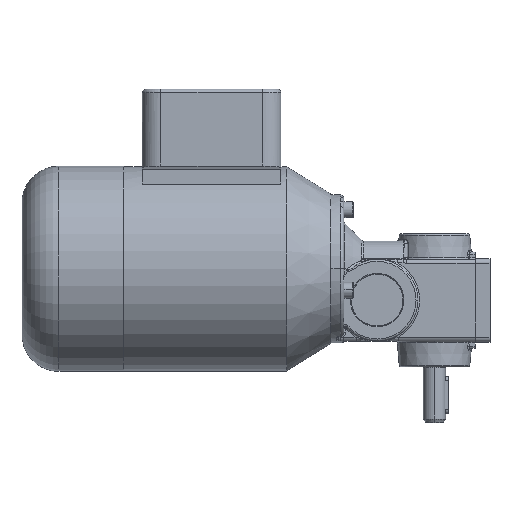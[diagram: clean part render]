
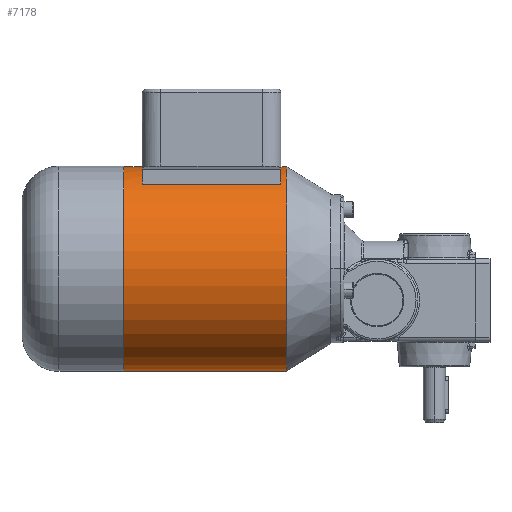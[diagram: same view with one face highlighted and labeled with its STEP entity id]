
A CAD part, top view. The second image highlights one B-rep face of the part: STEP entity #7178.
In plain terms, the highlighted cylindrical face has radius 55.25 mm (diameter 110.5 mm), a partial arc.
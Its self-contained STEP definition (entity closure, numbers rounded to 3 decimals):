
#34 = ORIENTED_EDGE ( 'NONE', *, *, #6177, .T. ) ;
#157 = DIRECTION ( 'NONE',  ( -1., 0., 0. ) ) ;
#544 = LINE ( 'NONE', #5628, #14982 ) ;
#827 = DIRECTION ( 'NONE',  ( 1., 0., 0. ) ) ;
#1104 = VERTEX_POINT ( 'NONE', #6910 ) ;
#1325 = CIRCLE ( 'NONE', #13515, 55.25 ) ;
#1761 = VERTEX_POINT ( 'NONE', #12609 ) ;
#1795 = ORIENTED_EDGE ( 'NONE', *, *, #3312, .F. ) ;
#1806 = DIRECTION ( 'NONE',  ( -1., 0., 0. ) ) ;
#2037 = ORIENTED_EDGE ( 'NONE', *, *, #5833, .F. ) ;
#2106 = VERTEX_POINT ( 'NONE', #3444 ) ;
#2120 = EDGE_CURVE ( 'NONE', #11234, #6766, #10982, .T. ) ;
#2674 = ORIENTED_EDGE ( 'NONE', *, *, #2120, .F. ) ;
#2685 = VECTOR ( 'NONE', #10660, 1000. ) ;
#2811 = DIRECTION ( 'NONE',  ( -1., 0., 0. ) ) ;
#2814 = CYLINDRICAL_SURFACE ( 'NONE', #16164, 55.25 ) ;
#3136 = LINE ( 'NONE', #10782, #3855 ) ;
#3212 = CIRCLE ( 'NONE', #13800, 55.25 ) ;
#3312 = EDGE_CURVE ( 'NONE', #13539, #11234, #3136, .T. ) ;
#3337 = DIRECTION ( 'NONE',  ( 0., 0., -1. ) ) ;
#3415 = AXIS2_PLACEMENT_3D ( 'NONE', #5391, #2811, #6721 ) ;
#3421 = EDGE_CURVE ( 'NONE', #2106, #1104, #544, .T. ) ;
#3444 = CARTESIAN_POINT ( 'NONE',  ( 65., 31., -45.734 ) ) ;
#3855 = VECTOR ( 'NONE', #1806, 1000. ) ;
#4186 = CARTESIAN_POINT ( 'NONE',  ( 0., 0., -55.25 ) ) ;
#4187 = ORIENTED_EDGE ( 'NONE', *, *, #3421, .F. ) ;
#5006 = DIRECTION ( 'NONE',  ( 0., 0., 1. ) ) ;
#5033 = CIRCLE ( 'NONE', #3415, 55.25 ) ;
#5161 = CARTESIAN_POINT ( 'NONE',  ( 143., 0., 55.25 ) ) ;
#5277 = LINE ( 'NONE', #6610, #8707 ) ;
#5391 = CARTESIAN_POINT ( 'NONE',  ( 143., 0., 0. ) ) ;
#5628 = CARTESIAN_POINT ( 'NONE',  ( 12.029, 31., -45.734 ) ) ;
#5833 = EDGE_CURVE ( 'NONE', #12564, #2106, #3212, .T. ) ;
#6177 = EDGE_CURVE ( 'NONE', #13539, #16392, #5033, .T. ) ;
#6262 = CARTESIAN_POINT ( 'NONE',  ( 55., 0., 55.25 ) ) ;
#6610 = CARTESIAN_POINT ( 'NONE',  ( 0., 0., -55.25 ) ) ;
#6616 = ORIENTED_EDGE ( 'NONE', *, *, #7422, .F. ) ;
#6721 = DIRECTION ( 'NONE',  ( 0., 0., 1. ) ) ;
#6766 = VERTEX_POINT ( 'NONE', #13705 ) ;
#6910 = CARTESIAN_POINT ( 'NONE',  ( 140., 31., -45.734 ) ) ;
#7178 = ADVANCED_FACE ( 'NONE', ( #7730 ), #2814, .T. ) ;
#7338 = ORIENTED_EDGE ( 'NONE', *, *, #8212, .T. ) ;
#7422 = EDGE_CURVE ( 'NONE', #1104, #1761, #1325, .T. ) ;
#7730 = FACE_OUTER_BOUND ( 'NONE', #13239, .T. ) ;
#8212 = EDGE_CURVE ( 'NONE', #16392, #1761, #5277, .T. ) ;
#8324 = CARTESIAN_POINT ( 'NONE',  ( 143., 0., -55.25 ) ) ;
#8484 = CARTESIAN_POINT ( 'NONE',  ( 65., 0., 0. ) ) ;
#8707 = VECTOR ( 'NONE', #9163, 1000. ) ;
#9121 = CARTESIAN_POINT ( 'NONE',  ( 0., 0., 0. ) ) ;
#9163 = DIRECTION ( 'NONE',  ( -1., 0., 0. ) ) ;
#9863 = CARTESIAN_POINT ( 'NONE',  ( 140., 0., 0. ) ) ;
#10493 = LINE ( 'NONE', #4186, #2685 ) ;
#10660 = DIRECTION ( 'NONE',  ( -1., 0., 0. ) ) ;
#10691 = DIRECTION ( 'NONE',  ( 1., 0., 0. ) ) ;
#10782 = CARTESIAN_POINT ( 'NONE',  ( 0., 0., 55.25 ) ) ;
#10982 = CIRCLE ( 'NONE', #11256, 55.25 ) ;
#11234 = VERTEX_POINT ( 'NONE', #6262 ) ;
#11256 = AXIS2_PLACEMENT_3D ( 'NONE', #14966, #16362, #5006 ) ;
#11469 = CARTESIAN_POINT ( 'NONE',  ( 65., 0., -55.25 ) ) ;
#12489 = ORIENTED_EDGE ( 'NONE', *, *, #13364, .T. ) ;
#12545 = DIRECTION ( 'NONE',  ( 0., 0., 1. ) ) ;
#12564 = VERTEX_POINT ( 'NONE', #11469 ) ;
#12609 = CARTESIAN_POINT ( 'NONE',  ( 140., 0., -55.25 ) ) ;
#13239 = EDGE_LOOP ( 'NONE', ( #34, #7338, #6616, #4187, #2037, #12489, #2674, #1795 ) ) ;
#13364 = EDGE_CURVE ( 'NONE', #12564, #6766, #10493, .T. ) ;
#13515 = AXIS2_PLACEMENT_3D ( 'NONE', #9863, #14754, #14835 ) ;
#13539 = VERTEX_POINT ( 'NONE', #5161 ) ;
#13705 = CARTESIAN_POINT ( 'NONE',  ( 55., 0., -55.25 ) ) ;
#13800 = AXIS2_PLACEMENT_3D ( 'NONE', #8484, #827, #3337 ) ;
#14754 = DIRECTION ( 'NONE',  ( -1., 0., 0. ) ) ;
#14835 = DIRECTION ( 'NONE',  ( 0., 0., 1. ) ) ;
#14966 = CARTESIAN_POINT ( 'NONE',  ( 55., 0., 0. ) ) ;
#14982 = VECTOR ( 'NONE', #10691, 1000. ) ;
#16164 = AXIS2_PLACEMENT_3D ( 'NONE', #9121, #157, #12545 ) ;
#16362 = DIRECTION ( 'NONE',  ( -1., 0., 0. ) ) ;
#16392 = VERTEX_POINT ( 'NONE', #8324 ) ;
